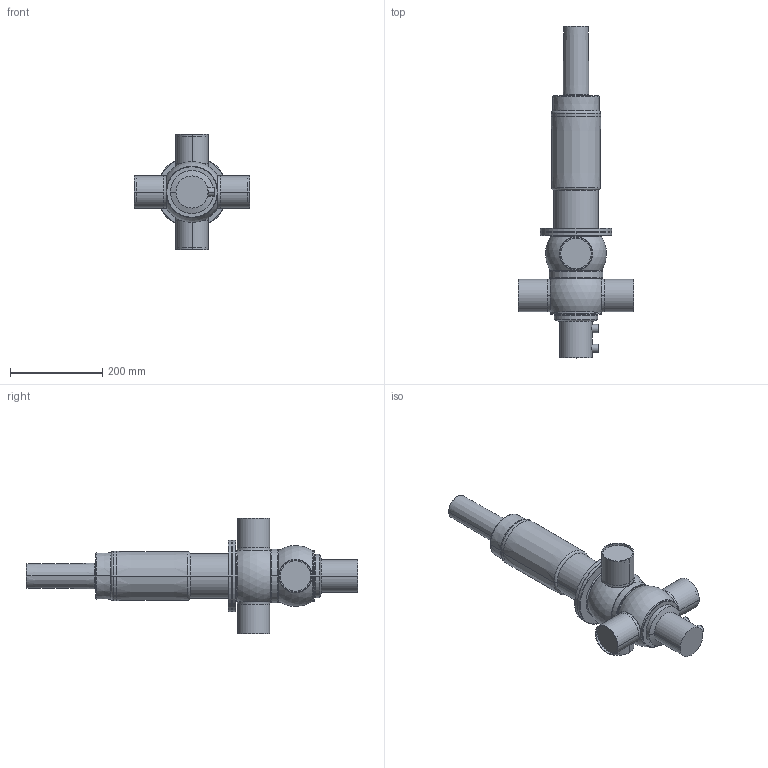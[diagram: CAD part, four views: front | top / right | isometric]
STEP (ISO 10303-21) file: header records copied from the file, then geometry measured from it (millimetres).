
FILE_DESCRIPTION(('Creo Elements/Direct Modeling STEP Export'),'2;1');
FILE_NAME('D44-65_prox..stp','2019-09-03T15:49:14',(''),(''),'PTC Creo Elements/Direct Modeling STEP processor for AP214 (Solid Model)','PTC Creo Elements/Direct Modeling 19.0B 21-Mar-2015 (C) Parametric Technology GmbH','');
FILE_SCHEMA(('AUTOMOTIVE_DESIGN { 1 0 10303 214 1 1 1 1 }'));
Length unit declared in the file: millimetre
Products named in the file (5): D4_Prox._holder.; actuator_D4-100_yoke; drain_pipe-62; housing_D44-65; D44-65_prox.
Assembly tree (4 placements, depth 2):
  D44-65_prox.
    housing_D44-65
    drain_pipe-62
    actuator_D4-100_yoke
    D4_Prox._holder.
Bounding box: 250 x 721.35 x 250 mm (x, y, z)
Volume: 6520708.1 mm3; surface area: 397072.4 mm2
Topology: 4 solids, 4 shells, 136 faces, 293 edges, 179 vertices
Faces by surface type: cylinder 50, torus 40, plane 28, cone 14, sphere 4
Entity records: 4757 total; most frequent: CARTESIAN_POINT 1898, ORIENTED_EDGE 586, DIRECTION 576, EDGE_CURVE 293, AXIS2_PLACEMENT_3D 256, VERTEX_POINT 179, EDGE_LOOP 150, FACE_OUTER_BOUND 136
